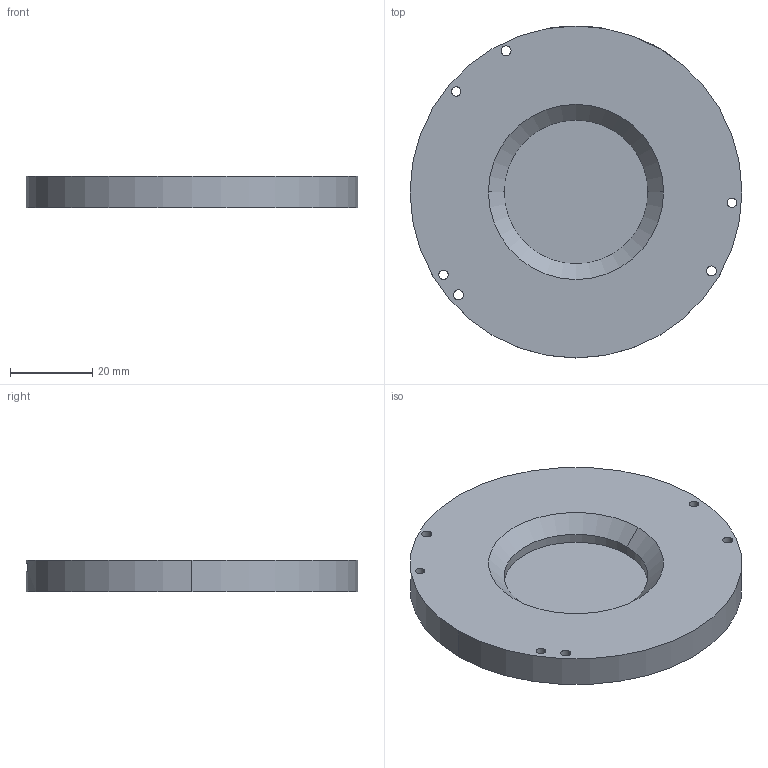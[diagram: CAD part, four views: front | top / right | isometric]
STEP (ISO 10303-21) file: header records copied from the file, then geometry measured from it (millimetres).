
FILE_DESCRIPTION (( 'STEP AP214' ), '1' );
FILE_NAME ('DSS35 Dumb Model.STEP', '2014-08-07T11:31:43', ( 'admin' ), ( 'Hewlett-Packard Company' ), 'SwSTEP 2.0', 'SolidWorks 2014', '' );
FILE_SCHEMA (( 'AUTOMOTIVE_DESIGN' ));
Length unit declared in the file: inch
Products named in the file (1): DSS35 Dumb Model
Bounding box: 80.77 x 80.77 x 7.67 mm (x, y, z)
Volume: 30945.9 mm3; surface area: 13289.2 mm2
Topology: 1 solids, 1 shells, 58 faces, 140 edges, 91 vertices
Faces by surface type: plane 34, cylinder 20, cone 4
Entity records: 2091 total; most frequent: CARTESIAN_POINT 340, DIRECTION 296, ORIENTED_EDGE 276, EDGE_CURVE 138, AXIS2_PLACEMENT_3D 101, LINE 94, VECTOR 94, VERTEX_POINT 91
